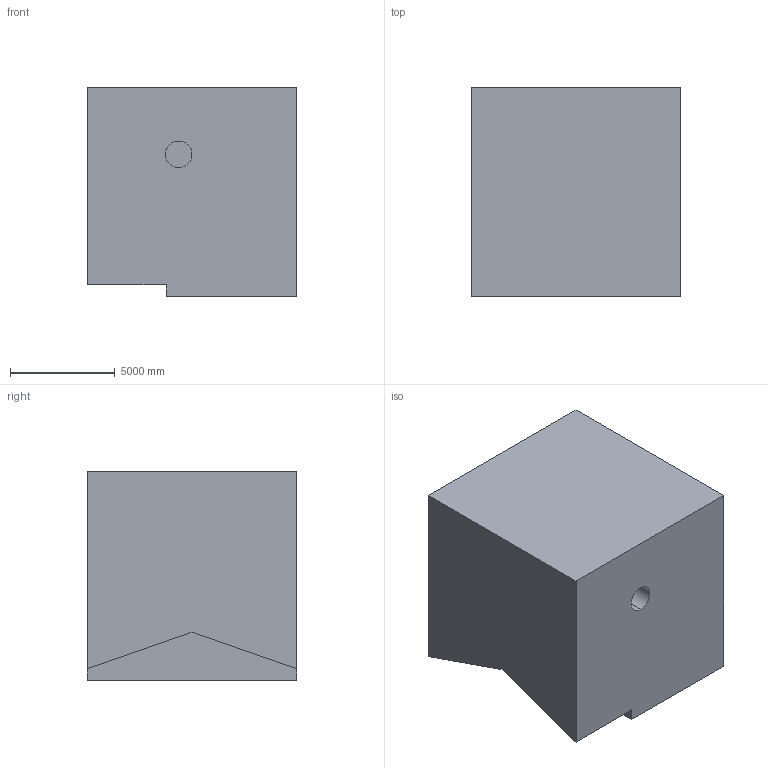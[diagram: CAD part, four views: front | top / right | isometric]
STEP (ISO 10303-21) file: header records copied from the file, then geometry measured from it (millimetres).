
FILE_DESCRIPTION (( 'STEP AP203' ), '1' );
FILE_NAME ('13.STEP', '2022-08-30T14:01:27', ( 'user' ), ( '' ), 'SwSTEP 2.0', 'SolidWorks 2021', '' );
FILE_SCHEMA (( 'CONFIG_CONTROL_DESIGN' ));
Length unit declared in the file: centimetre
Products named in the file (1): 13
Bounding box: 10000 x 10000 x 10000 mm (x, y, z)
Volume: 939805437385.4 mm3; surface area: 616320247.6 mm2
Topology: 1 solids, 1 shells, 12 faces, 27 edges, 18 vertices
Faces by surface type: plane 10, cylinder 2
Entity records: 412 total; most frequent: CARTESIAN_POINT 58, DIRECTION 57, ORIENTED_EDGE 54, EDGE_CURVE 27, VECTOR 23, LINE 23, VERTEX_POINT 18, AXIS2_PLACEMENT_3D 17
